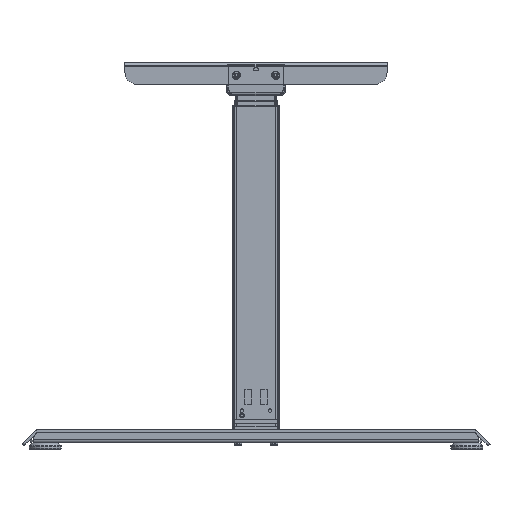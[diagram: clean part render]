
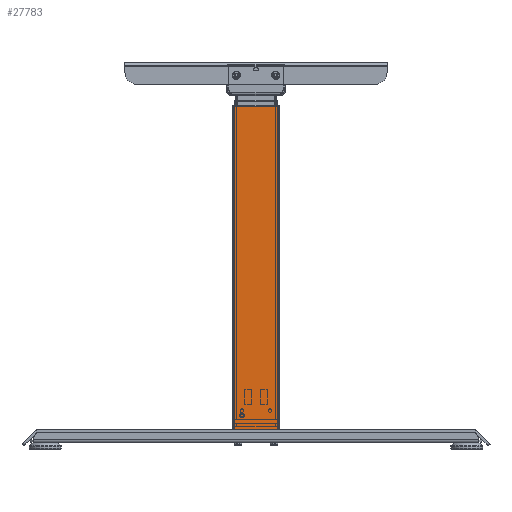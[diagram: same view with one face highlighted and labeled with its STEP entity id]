
A CAD part, left-side view. The second image highlights one B-rep face of the part: STEP entity #27783.
In plain terms, the highlighted planar face has unit normal (-1, 0, 0).
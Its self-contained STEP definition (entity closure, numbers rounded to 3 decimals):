
#1509=PLANE('',#30129);
#4028=ORIENTED_EDGE('',*,*,#12080,.T.);
#4029=ORIENTED_EDGE('',*,*,#12090,.F.);
#4030=ORIENTED_EDGE('',*,*,#12091,.F.);
#4031=ORIENTED_EDGE('',*,*,#12092,.F.);
#12080=EDGE_CURVE('',#16150,#16149,#18870,.T.);
#12090=EDGE_CURVE('',#16156,#16149,#18878,.T.);
#12091=EDGE_CURVE('',#16157,#16156,#18879,.T.);
#12092=EDGE_CURVE('',#16150,#16157,#18880,.T.);
#16149=VERTEX_POINT('',#41263);
#16150=VERTEX_POINT('',#41265);
#16156=VERTEX_POINT('',#41284);
#16157=VERTEX_POINT('',#41286);
#18870=LINE('',#41264,#21241);
#18878=LINE('',#41283,#21249);
#18879=LINE('',#41285,#21250);
#18880=LINE('',#41287,#21251);
#21241=VECTOR('',#33393,1000.);
#21249=VECTOR('',#33411,1000.);
#21250=VECTOR('',#33412,1000.);
#21251=VECTOR('',#33413,1000.);
#23585=EDGE_LOOP('',(#4028,#4029,#4030,#4031));
#25434=FACE_BOUND('',#23585,.T.);
#27783=ADVANCED_FACE('',(#25434),#1509,.T.);
#30129=AXIS2_PLACEMENT_3D('',#41282,#33409,#33410);
#33393=DIRECTION('',(0.,1.,0.));
#33409=DIRECTION('',(-1.,0.,0.));
#33410=DIRECTION('',(0.,-1.,0.));
#33411=DIRECTION('',(0.,0.,1.));
#33412=DIRECTION('',(0.,1.,0.));
#33413=DIRECTION('',(0.,0.,-1.));
#41263=CARTESIAN_POINT('',(32.893,472.9,579.9));
#41264=CARTESIAN_POINT('',(32.893,403.9,579.9));
#41265=CARTESIAN_POINT('',(32.893,403.9,579.9));
#41282=CARTESIAN_POINT('',(32.893,438.4,320.9));
#41283=CARTESIAN_POINT('',(32.893,472.9,61.9));
#41284=CARTESIAN_POINT('',(32.893,472.9,61.9));
#41285=CARTESIAN_POINT('',(32.893,403.9,61.9));
#41286=CARTESIAN_POINT('',(32.893,403.9,61.9));
#41287=CARTESIAN_POINT('',(32.893,403.9,579.9));
